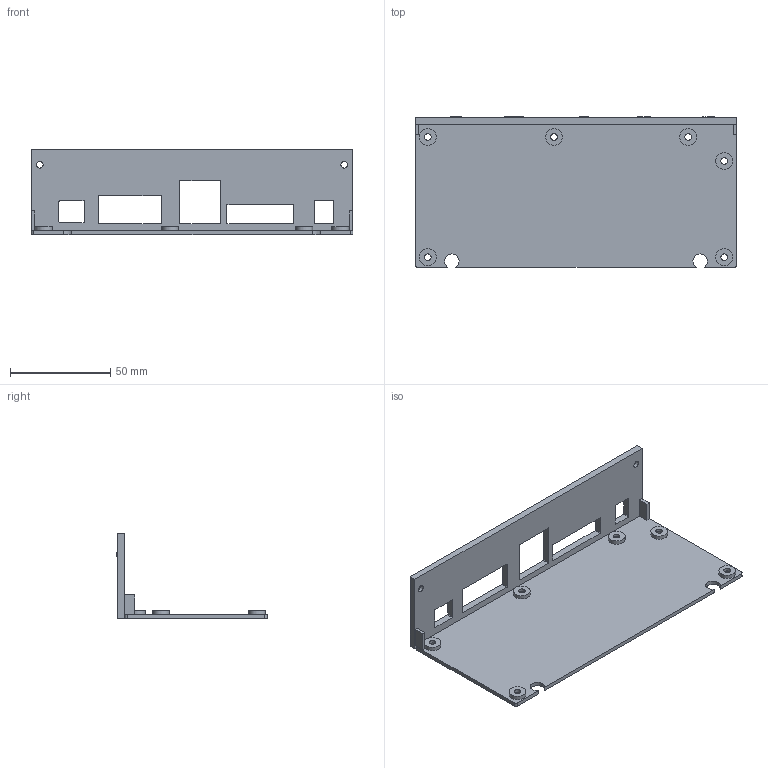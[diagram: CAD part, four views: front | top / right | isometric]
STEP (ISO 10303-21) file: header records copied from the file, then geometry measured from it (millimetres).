
FILE_DESCRIPTION(('Open CASCADE Model'),'2;1');
FILE_NAME('Open CASCADE Shape Model','2026-11-07T21:51:53',('Author'),( 'Open CASCADE'),'Open CASCADE STEP processor 7.9','Open CASCADE 7.9' ,'Unknown');
FILE_SCHEMA(('AUTOMOTIVE_DESIGN { 1 0 10303 214 1 1 1 1 }'));
Length unit declared in the file: millimetre
Products named in the file (1): Open CASCADE STEP translator 7.9 19
Bounding box: 160.4 x 75 x 42.5 mm (x, y, z)
Volume: 41559.7 mm3; surface area: 37815.8 mm2
Topology: 1 solids, 1 shells, 414 faces, 1127 edges, 750 vertices
Faces by surface type: plane 256, extrusion 116, cylinder 40, cone 2
Full cylindrical faces by diameter (mm): 3.3 x8, 8.4 x6
Entity records: 27695 total; most frequent: CARTESIAN_POINT 5996, DIRECTION 3522, VECTOR 2689, LINE 2573, ORIENTED_EDGE 2254, PCURVE 2254, DEFINITIONAL_REPRESENTATION 2254, EDGE_CURVE 1127
